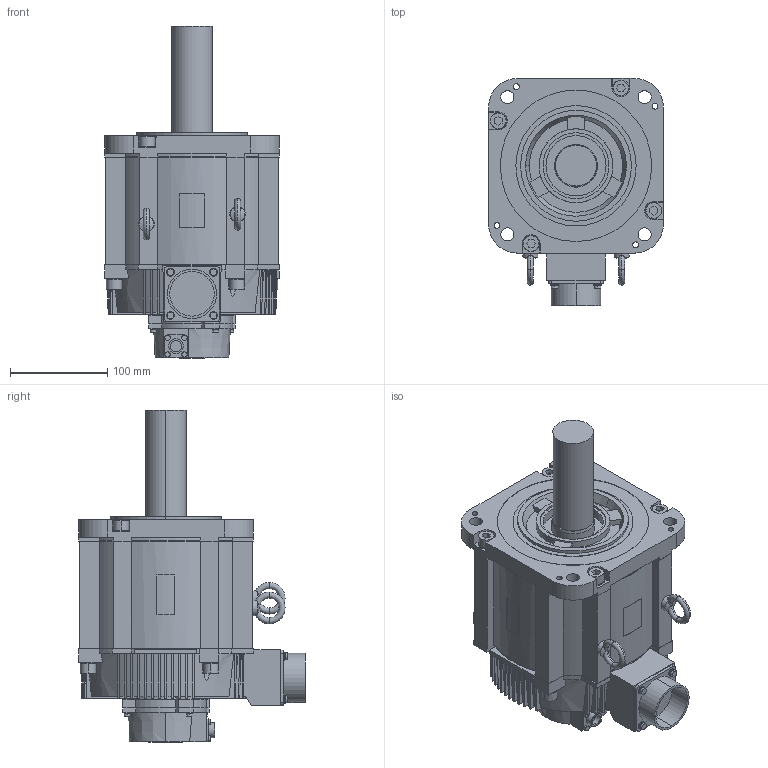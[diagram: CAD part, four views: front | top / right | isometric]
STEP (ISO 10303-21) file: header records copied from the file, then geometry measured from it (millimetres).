
FILE_DESCRIPTION (( 'STEP AP203' ), '1' );
FILE_NAME ('sgm7g_55a6a21.STEP', '2016-11-12T09:38:00', ( '匠エンジニアリング山之内' ), ( 'TAKUMI-Engniaring' ), 'SwSTEP 2.0', 'SolidWorks 2006303', '' );
FILE_SCHEMA (( 'CONFIG_CONTROL_DESIGN' ));
Length unit declared in the file: millimetre
Products named in the file (3): sgm7g_55a6a21_eyebolt; sgm7g_55a6a21; sgm7g_55a6a21_base
Assembly tree (3 placements, depth 2):
  sgm7g_55a6a21
    sgm7g_55a6a21_eyebolt  x2
    sgm7g_55a6a21_base
Bounding box: 180 x 233.75 x 342.1 mm (x, y, z)
Volume: 5248475.5 mm3; surface area: 285023.7 mm2
Topology: 3 solids, 3 shells, 914 faces, 2435 edges, 1600 vertices
Faces by surface type: plane 584, cylinder 220, cone 102, torus 8
Entity records: 29237 total; most frequent: CARTESIAN_POINT 6006, ORIENTED_EDGE 4816, DIRECTION 4771, EDGE_CURVE 2408, AXIS2_PLACEMENT_3D 1642, VERTEX_POINT 1584, VECTOR 1487, LINE 1487
